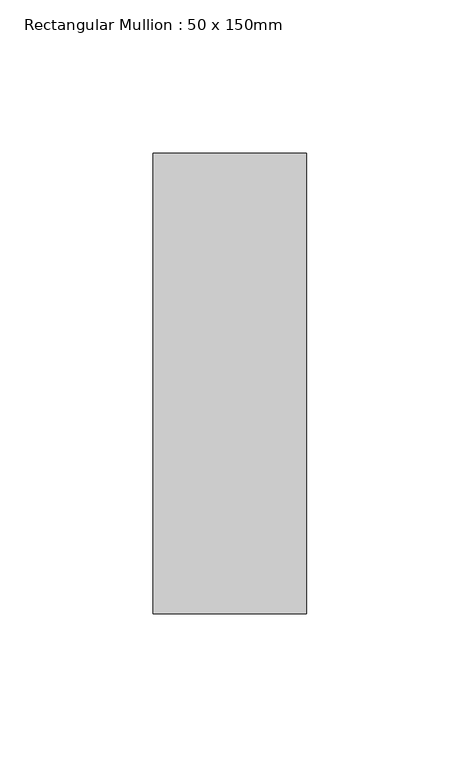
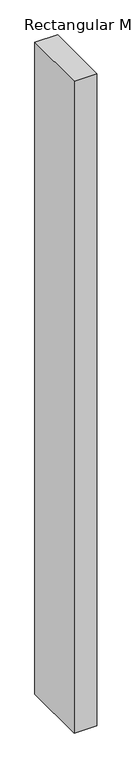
"""IFC4 building model written with IfcOpenShell, lengths in millimetres: member geometry, Rectangular Mullion : 50 x 150mm."""

from ifc_helpers import new_model, si_unit, frame, origin, place, context, project, spatial, polyline, outline, extrude, source, transform, mapped, element, save


def rectangular_mullion_50_x_150mm_4d330a12(model_context):
    return source(origin(), model_context, "Body", "SweptSolid", [
        extrude(outline(polyline([(0.0, 75.0), (0.0, -75.0), (-50.0, -75.0), (-50.0, 75.0), (0.0, 75.0)])), frame((0.0, 0.0, -1524.0), z_axis=(0.0, 0.0, 1.0), x_axis=(1.0, 0.0, 0.0)), (0.0, 0.0, 1.0), 1524.0),
    ])


if __name__ == "__main__":
    model = new_model("IFC4")
    model_context = context("Model", 3, world=origin())
    ifc_project = project(units=[si_unit("LENGTHUNIT", "METRE", prefix="MILLI")], contexts=[model_context])
    site = spatial("IfcSite", under=ifc_project)
    building = spatial("IfcBuilding", under=site)
    placement = place(None, origin())
    rectangular_mullion_50_x_150mm_shape = rectangular_mullion_50_x_150mm_4d330a12(model_context)
    element("IfcMember", 1, ObjectType="Rectangular Mullion : 50 x 150mm", at=placement, inside=building, context=model_context, shape_type="MappedRepresentation", body=[
        mapped(rectangular_mullion_50_x_150mm_shape, transform((0.0, 0.0, 0.0), x_axis=(1.0, 0.0, 0.0), y_axis=(0.0, 1.0, 0.0), z_axis=(0.0, 0.0, 1.0))),
    ])
    save(model, "model.ifc")
